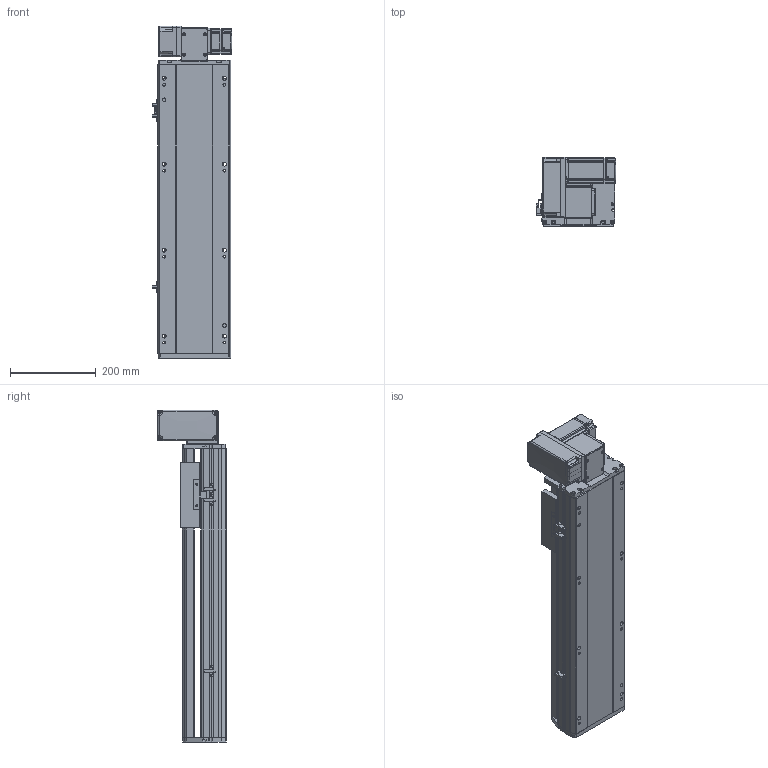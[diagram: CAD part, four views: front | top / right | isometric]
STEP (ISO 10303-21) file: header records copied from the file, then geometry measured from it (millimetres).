
FILE_DESCRIPTION (( 'STEP AP214' ), '1' );
FILE_NAME ('RTB17S-XX-400-LW-M40-C4.STEP', '2025-12-11T06:56:48', ( '' ), ( '' ), 'SwSTEP 2.0', 'SolidWorks 2018', '' );
FILE_SCHEMA (( 'AUTOMOTIVE_DESIGN' ));
Length unit declared in the file: millimetre
Products named in the file (14): OMRON EE-SX672 传感器^RTB17S-XX-XX-LW-M40-C4; RTB14-L-017P^RTB17S-LW-々湍釱蚾饜-400W_RTB17S-XX-XX-LW-M40-C4; RTB17S-L-007奻裔^RTB17S-XX-XX-LW-M40-C4; RTB17S-LW-々湍釱蚾饜-400W^RTB17S-XX-XX-LW-M40-C4; RTB14-L-008-M20--萇儂啣^RTB17S-LW-々湍釱蚾饜-400W_RTB17S-XX-XX-LW-M40-C4; RTH13-BL-012覜茼え俋离^RTB17S-XX-XX-LW-M40-C4; RTB14-L-005P--轴承塑胶压盖^RTB17S-LW-皮带座装配-400W_RTB17S-XX-XX-LW-M40-C4; RTB17S-XX-400-LW-M40-C4; RTB17-R-011菁釱^RTB17S-XX-XX-LW-M40-C4; RTB17S-L-004佪裝蹟譫蟀諉釱^RTB17S-XX-XX-LW-M40-C4; 400W侜督萇儂^RTB17S-XX-XX-LW-M40-C4; RTB17S-L-014-T20--々湍釱^RTB17S-LW-々湍釱蚾饜-400W_RTB17S-XX-XX-LW-M40-C4; RTB14-L-018P^RTB17S-LW-々湍釱蚾饜-400W_RTB17S-XX-XX-LW-M40-C4; RTB17S-L-001耜醱啣^RTB17S-XX-XX-LW-M40-C4
Assembly tree (16 placements, depth 3):
  RTB17S-XX-400-LW-M40-C4
    RTB17-R-011菁釱^RTB17S-XX-XX-LW-M40-C4
    RTB17S-L-007奻裔^RTB17S-XX-XX-LW-M40-C4
    OMRON EE-SX672 传感器^RTB17S-XX-XX-LW-M40-C4  x3
    RTB17S-L-001耜醱啣^RTB17S-XX-XX-LW-M40-C4
    400W侜督萇儂^RTB17S-XX-XX-LW-M40-C4
    RTB17S-L-004佪裝蹟譫蟀諉釱^RTB17S-XX-XX-LW-M40-C4
    RTH13-BL-012覜茼え俋离^RTB17S-XX-XX-LW-M40-C4
    RTB17S-LW-々湍釱蚾饜-400W^RTB17S-XX-XX-LW-M40-C4
      RTB17S-L-014-T20--々湍釱^RTB17S-LW-々湍釱蚾饜-400W_RTB17S-XX-XX-LW-M40-C4
      RTB14-L-005P--轴承塑胶压盖^RTB17S-LW-皮带座装配-400W_RTB17S-XX-XX-LW-M40-C4
      RTB14-L-008-M20--萇儂啣^RTB17S-LW-々湍釱蚾饜-400W_RTB17S-XX-XX-LW-M40-C4
      RTB14-L-017P^RTB17S-LW-々湍釱蚾饜-400W_RTB17S-XX-XX-LW-M40-C4  x2
      RTB14-L-018P^RTB17S-LW-々湍釱蚾饜-400W_RTB17S-XX-XX-LW-M40-C4
Bounding box: 186 x 160.5 x 772.5 mm (x, y, z)
Volume: 7484045.1 mm3; surface area: 963590.7 mm2
Topology: 15 solids, 15 shells, 2157 faces, 5925 edges, 3861 vertices
Faces by surface type: plane 1062, cylinder 647, bspline 301, cone 139, torus 8
Entity records: 60329 total; most frequent: CARTESIAN_POINT 16730, ORIENTED_EDGE 8694, DIRECTION 8126, EDGE_CURVE 4347, VERTEX_POINT 2849, AXIS2_PLACEMENT_3D 2779, VECTOR 2568, LINE 2568
